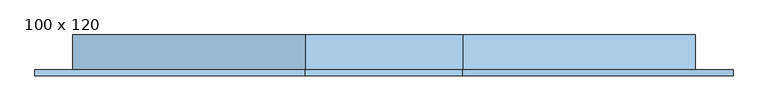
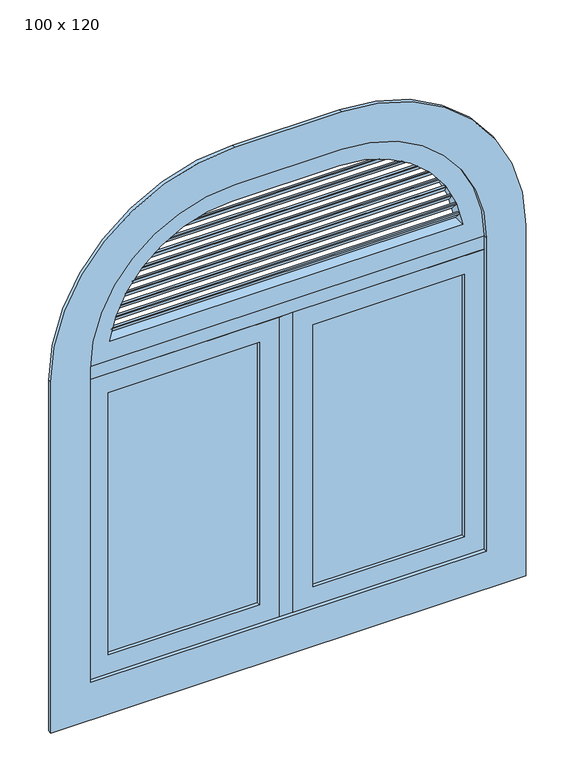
"""IFC4 building model written with IfcOpenShell, lengths in millimetres: window geometry, JANELA COM ESQUADRIA FIXA - 2 FOLHAS + BANDEIRA VENEZIANA ABOBADADA - 1 FOLHA : 100 x 120."""

from ifc_helpers import new_model, si_unit, point, frame, frame_2d, origin, place, context, project, spatial, polyline, circle_curve, ellipse_curve, trimmed, segment, composite_curve, outline, extrude, source, transform, mapped, element, save
from ifc_brep_helpers import plane_surface, cylinder_surface, advanced_brep


def window_100_x_120_4a258b0d(model_context):
    return source(origin(), model_context, "Body", "SolidModel", [
        extrude(outline(polyline([(61.9035509, -60.3758395), (61.9035509, -66.3758395), (-320.5964491, -66.3758395), (-320.5964491, -60.3758395), (61.9035509, -60.3758395)])), frame((0.0, 0.0, 1050.0), z_axis=(0.0, 0.0, 1.0), x_axis=(1.0, 0.0, 0.0)), (0.0, 0.0, 1.0), 700.0),
        extrude(outline(polyline([(1800.0, 111.9035509), (1800.0, -370.5964491), (1000.0, -370.5964491), (1000.0, 111.9035509), (1800.0, 111.9035509)]), holes=[polyline([(1750.0, 61.9035509), (1050.0, 61.9035509), (1050.0, -320.5964491), (1750.0, -320.5964491), (1750.0, 61.9035509)])]), frame((0.0, -75.8758395, 0.0), z_axis=(0.0, 1.0, 0.0), x_axis=(0.0, 0.0, 1.0)), (0.0, 0.0, 1.0), 25.0),
        extrude(outline(polyline([(579.4035509, -60.3758395), (579.4035509, -66.3758395), (196.9035509, -66.3758395), (196.9035509, -60.3758395), (579.4035509, -60.3758395)])), frame((0.0, 0.0, 1050.0), z_axis=(0.0, 0.0, 1.0), x_axis=(1.0, 0.0, 0.0)), (0.0, 0.0, 1.0), 700.0),
        extrude(outline(polyline([(1800.0, 629.4035509), (1800.0, 146.9035509), (1000.0, 146.9035509), (1000.0, 629.4035509), (1800.0, 629.4035509)]), holes=[polyline([(1750.0, 579.4035509), (1050.0, 579.4035509), (1050.0, 196.9035509), (1750.0, 196.9035509), (1750.0, 579.4035509)])]), frame((0.0, -75.8758395, 0.0), z_axis=(0.0, 1.0, 0.0), x_axis=(0.0, 0.0, 1.0)), (0.0, 0.0, 1.0), 25.0),
        extrude(outline(composite_curve([segment(polyline([(1835.0, -370.5964491), (1835.0, 629.4035509)]), True, "CONTINUOUS"), segment(trimmed(circle_curve(frame_2d((1835.0, 264.4035509)), 365.0), [point((1835.0, 629.4035509))], [point((2200.0, 264.4035509))], False, "CARTESIAN"), True, "CONTINUOUS"), segment(polyline([(2200.0, 264.4035509), (2200.0, -5.5964491)]), True, "CONTINUOUS"), segment(trimmed(circle_curve(frame_2d((1835.0, -5.5964491)), 365.0), [point((2200.0, -5.5964491))], [point((1835.0, -370.5964491))], False, "CARTESIAN"), True, "CONTINUOUS")], self_intersect=False), holes=[composite_curve([segment(trimmed(circle_curve(frame_2d((1835.0, -5.5964491)), 315.0), [point((1885.0, -316.6028799))], [point((2150.0, -5.5964491))], True, "CARTESIAN"), True, "CONTINUOUS"), segment(polyline([(2150.0, -5.5964491), (2150.0, 264.4035509)]), True, "CONTINUOUS"), segment(trimmed(circle_curve(frame_2d((1835.0, 264.4035509)), 315.0), [point((2150.0, 264.4035509))], [point((1885.0, 575.4099817))], True, "CARTESIAN"), True, "CONTINUOUS"), segment(polyline([(1885.0, 575.4099817), (1885.0, -316.6028799)]), True, "CONTINUOUS")], self_intersect=False)]), frame((0.0, -75.8758395, 0.0), z_axis=(0.0, 1.0, 0.0), x_axis=(0.0, 0.0, 1.0)), (0.0, 0.0, 1.0), 40.0),
        advanced_brep(
        [(567.9018767, -75.8758395, 1919.3431458), (-309.0947749, -75.8758395, 1919.3431458), (-310.0479231, -75.8758395, 1915.8350169), (568.855025, -75.8758395, 1915.8350169), (-316.6028799, -35.8758395, 1885.0), (575.4099817, -35.8758395, 1885.0), (575.4099817, -45.0408226, 1885.0), (-316.6028799, -45.0408226, 1885.0), (567.9018767, -70.2189853, 1919.3431458), (-309.0947749, -70.2189853, 1919.3431458)],
        [
            (0, 1),
            (1, 2, circle_curve(frame((-5.5964491, -75.8758395, 1835.0), z_axis=(0.0, -1.0, 0.0), x_axis=(-1.0, 0.0, 0.0)), 315.0)),
            (2, 3),
            (3, 0, circle_curve(frame((264.4035509, -75.8758395, 1835.0), z_axis=(0.0, -1.0, 0.0), x_axis=(-1.0, 0.0, 0.0)), 315.0)),
            (4, 5),
            (5, 6),
            (6, 7),
            (7, 4),
            (0, 8),
            (8, 9),
            (9, 1),
            (4, 9, ellipse_curve(frame((-5.5964491, 14.1241605, 1835.0), z_axis=(0.0, 0.7071067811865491, 0.7071067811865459), x_axis=(0.0, -0.707106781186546, 0.7071067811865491)), 445.4772721, 315.0)),
            (8, 5, ellipse_curve(frame((264.4035509, 14.1241605, 1835.0), z_axis=(0.0, 0.7071067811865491, 0.7071067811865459), x_axis=(0.0, -0.707106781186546, 0.7071067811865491)), 445.4772721, 315.0)),
            (2, 7, ellipse_curve(frame((-5.5964491, 4.9591774, 1835.0), z_axis=(0.0, -0.7071067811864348, -0.7071067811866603), x_axis=(0.0, -0.7071067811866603, 0.7071067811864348)), 445.4772721, 315.0)),
            (6, 3, ellipse_curve(frame((264.4035509, 4.9591774, 1835.0), z_axis=(0.0, -0.7071067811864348, -0.7071067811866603), x_axis=(0.0, -0.7071067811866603, 0.7071067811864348)), 445.4772721, 315.0)),
        ],
        [
            plane_surface(frame((579.4035509, -75.8758395, 2150.0), z_axis=(0.0, -1.0, 0.0), x_axis=(-1.0, 0.0, 0.0))),
            plane_surface(frame((579.4035509, -75.8758395, 1885.0), z_axis=(0.0, 0.0, -1.0), x_axis=(-1.0, 0.0, 0.0))),
            plane_surface(frame((-320.5964491, -70.2189853, 1919.3431458), z_axis=(0.0, 0.0, 1.0), x_axis=(1.0, 0.0, 0.0))),
            plane_surface(frame((-320.5964491, -35.8758395, 1885.0), z_axis=(0.0, 0.7071067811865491, 0.7071067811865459), x_axis=(1.0, 0.0, 0.0))),
            plane_surface(frame((579.4035509, -45.0408226, 1885.0), z_axis=(0.0, -0.7071067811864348, -0.7071067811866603), x_axis=(-1.0, 0.0, 0.0))),
            cylinder_surface(frame((-5.5964491, -75.8758395, 1835.0), z_axis=(0.0, -1.0, 0.0), x_axis=(-1.0, 0.0, 0.0)), 315.0),
            cylinder_surface(frame((264.4035509, -75.8758395, 1835.0), z_axis=(0.0, -1.0, 0.0), x_axis=(-1.0, 0.0, 0.0)), 315.0),
        ],
        [
            (0, [[1, 2, 3, 4]]),
            (1, [[5, 6, 7, 8]]),
            (2, [[-1, 9, 10, 11]]),
            (3, [[-5, 12, -10, 13]]),
            (4, [[-3, 14, -7, 15]]),
            (5, [[-2, -11, -12, -8, -14]]),
            (6, [[-4, -15, -6, -13, -9]]),
        ],
    ),
        advanced_brep(
        [(-301.0926097, -75.8758395, 1944.1192881), (559.8997116, -75.8758395, 1944.1192881), (559.0541407, -75.8758395, 1946.3823593), (-300.2470388, -75.8758395, 1946.3823593), (570.3995126, -35.8758395, 1909.7761424), (-311.5924107, -35.8758395, 1909.7761424), (-311.0305002, -35.8758395, 1912.0392136), (569.837602, -35.8758395, 1912.0392136), (570.3995126, -41.5326938, 1909.7761424), (-311.5924107, -41.5326938, 1909.7761424), (559.0541407, -70.2189853, 1946.3823593), (-300.2470388, -70.2189853, 1946.3823593)],
        [
            (0, 1),
            (1, 2, circle_curve(frame((264.4035509, -75.8758395, 1835.0), z_axis=(0.0, -1.0, 0.0), x_axis=(-1.0, 0.0, 0.0)), 315.0)),
            (2, 3),
            (3, 0, circle_curve(frame((-5.5964491, -75.8758395, 1835.0), z_axis=(0.0, -1.0, 0.0), x_axis=(-1.0, 0.0, 0.0)), 315.0)),
            (4, 5),
            (5, 6, circle_curve(frame((-5.5964491, -35.8758395, 1835.0), z_axis=(0.0, 1.0, 0.0), x_axis=(-1.0, 0.0, 0.0)), 315.0)),
            (6, 7),
            (7, 4, circle_curve(frame((264.4035509, -35.8758395, 1835.0), z_axis=(0.0, 1.0, 0.0), x_axis=(-1.0, 0.0, 0.0)), 315.0)),
            (4, 8),
            (8, 9),
            (9, 5),
            (0, 9, ellipse_curve(frame((-5.5964491, 33.2434486, 1835.0), z_axis=(0.0, -0.7071067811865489, -0.7071067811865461), x_axis=(0.0, -0.7071067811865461, 0.7071067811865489)), 445.4772721, 315.0)),
            (8, 1, ellipse_curve(frame((264.4035509, 33.2434486, 1835.0), z_axis=(0.0, -0.7071067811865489, -0.7071067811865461), x_axis=(0.0, -0.7071067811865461, 0.7071067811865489)), 445.4772721, 315.0)),
            (2, 10),
            (10, 11),
            (11, 3),
            (6, 11, ellipse_curve(frame((-5.5964491, 41.163374, 1835.0), z_axis=(0.0, 0.7071067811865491, 0.707106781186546), x_axis=(0.0, -0.7071067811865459, 0.7071067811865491)), 445.4772721, 315.0)),
            (10, 7, ellipse_curve(frame((264.4035509, 41.163374, 1835.0), z_axis=(0.0, 0.7071067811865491, 0.707106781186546), x_axis=(0.0, -0.7071067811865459, 0.7071067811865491)), 445.4772721, 315.0)),
        ],
        [
            plane_surface(frame((579.4035509, -75.8758395, 2150.0), z_axis=(0.0, -1.0, 0.0), x_axis=(-1.0, 0.0, 0.0))),
            plane_surface(frame((579.4035509, -35.8758395, 1885.0), z_axis=(0.0, 1.0, 0.0), x_axis=(-1.0, 0.0, 0.0))),
            plane_surface(frame((-320.5964491, -41.5326938, 1909.7761424), z_axis=(0.0, 0.0, -1.0), x_axis=(1.0, 0.0, 0.0))),
            plane_surface(frame((-320.5964491, -75.8758395, 1944.1192881), z_axis=(0.0, -0.7071067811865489, -0.7071067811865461), x_axis=(1.0, 0.0, 0.0))),
            plane_surface(frame((-320.5964491, -70.2189853, 1946.3823593), z_axis=(0.0, 0.0, 1.0), x_axis=(1.0, 0.0, 0.0))),
            plane_surface(frame((-320.5964491, -35.8758395, 1912.0392136), z_axis=(0.0, 0.7071067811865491, 0.707106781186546), x_axis=(1.0, 0.0, 0.0))),
            cylinder_surface(frame((-5.5964491, -75.8758395, 1835.0), z_axis=(0.0, -1.0, 0.0), x_axis=(-1.0, 0.0, 0.0)), 315.0),
            cylinder_surface(frame((264.4035509, -75.8758395, 1835.0), z_axis=(0.0, -1.0, 0.0), x_axis=(-1.0, 0.0, 0.0)), 315.0),
        ],
        [
            (0, [[1, 2, 3, 4]]),
            (1, [[5, 6, 7, 8]]),
            (2, [[-5, 9, 10, 11]]),
            (3, [[-1, 12, -10, 13]]),
            (4, [[-3, 14, 15, 16]]),
            (5, [[-7, 17, -15, 18]]),
            (6, [[-4, -16, -17, -6, -11, -12]]),
            (7, [[-2, -13, -9, -8, -18, -14]]),
        ],
    ),
        advanced_brep(
        [(358.3740569, -75.8758395, 2135.6568542), (-99.566955, -75.8758395, 2135.6568542), (-106.5229086, -75.8758395, 2133.3937831), (365.3300105, -75.8758395, 2133.3937831), (-173.8284575, -35.8758395, 2101.3137085), (432.6355594, -35.8758395, 2101.3137085), (436.165773, -35.8758395, 2099.0506373), (-177.3586711, -35.8758395, 2099.0506373), (358.3740569, -70.2189853, 2135.6568542), (-99.566955, -70.2189853, 2135.6568542), (-177.3586711, -41.5326938, 2099.0506373), (436.165773, -41.5326938, 2099.0506373)],
        [
            (0, 1),
            (1, 2, circle_curve(frame((-5.5964491, -75.8758395, 1835.0), z_axis=(0.0, -1.0, 0.0), x_axis=(-1.0, 0.0, 0.0)), 315.0)),
            (2, 3),
            (3, 0, circle_curve(frame((264.4035509, -75.8758395, 1835.0), z_axis=(0.0, -1.0, 0.0), x_axis=(-1.0, 0.0, 0.0)), 315.0)),
            (4, 5),
            (5, 6, circle_curve(frame((264.4035509, -35.8758395, 1835.0), z_axis=(0.0, 1.0, 0.0), x_axis=(-1.0, 0.0, 0.0)), 315.0)),
            (6, 7),
            (7, 4, circle_curve(frame((-5.5964491, -35.8758395, 1835.0), z_axis=(0.0, 1.0, 0.0), x_axis=(-1.0, 0.0, 0.0)), 315.0)),
            (0, 8),
            (8, 9),
            (9, 1),
            (4, 9, ellipse_curve(frame((-5.5964491, 230.437869, 1835.0), z_axis=(0.0, 0.7071067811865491, 0.7071067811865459), x_axis=(0.0, -0.707106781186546, 0.7071067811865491)), 445.4772721, 315.0)),
            (8, 5, ellipse_curve(frame((264.4035509, 230.437869, 1835.0), z_axis=(0.0, 0.7071067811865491, 0.7071067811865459), x_axis=(0.0, -0.707106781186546, 0.7071067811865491)), 445.4772721, 315.0)),
            (7, 10),
            (10, 2, ellipse_curve(frame((-5.5964491, 222.5179435, 1835.0), z_axis=(0.0, 0.7071067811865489, 0.7071067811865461), x_axis=(0.0, -0.7071067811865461, 0.7071067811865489)), 445.4772721, 315.0)),
            (3, 11, ellipse_curve(frame((264.4035509, 222.5179435, 1835.0), z_axis=(0.0, 0.7071067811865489, 0.7071067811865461), x_axis=(0.0, -0.7071067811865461, 0.7071067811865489)), 445.4772721, 315.0)),
            (11, 6),
            (11, 10),
        ],
        [
            plane_surface(frame((579.4035509, -75.8758395, 2150.0), z_axis=(0.0, -1.0, 0.0), x_axis=(-1.0, 0.0, 0.0))),
            plane_surface(frame((579.4035509, -35.8758395, 1885.0), z_axis=(0.0, 1.0, 0.0), x_axis=(-1.0, 0.0, 0.0))),
            plane_surface(frame((-320.5964491, -70.2189853, 2135.6568542), z_axis=(0.0, 0.0, 1.0), x_axis=(1.0, 0.0, 0.0))),
            plane_surface(frame((-320.5964491, -35.8758395, 2101.3137085), z_axis=(0.0, 0.7071067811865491, 0.7071067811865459), x_axis=(1.0, 0.0, 0.0))),
            cylinder_surface(frame((-5.5964491, -75.8758395, 1835.0), z_axis=(0.0, -1.0, 0.0), x_axis=(-1.0, 0.0, 0.0)), 315.0),
            cylinder_surface(frame((264.4035509, -75.8758395, 1835.0), z_axis=(0.0, -1.0, 0.0), x_axis=(-1.0, 0.0, 0.0)), 315.0),
            plane_surface(frame((-320.5964491, -41.5326938, 2099.0506373), z_axis=(0.0, 0.0, -1.0), x_axis=(1.0, 0.0, 0.0))),
            plane_surface(frame((-320.5964491, -75.8758395, 2133.3937831), z_axis=(0.0, -0.7071067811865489, -0.7071067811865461), x_axis=(1.0, 0.0, 0.0))),
        ],
        [
            (0, [[1, 2, 3, 4]]),
            (1, [[5, 6, 7, 8]]),
            (2, [[-1, 9, 10, 11]]),
            (3, [[-5, 12, -10, 13]]),
            (4, [[-11, -12, -8, 14, 15, -2]]),
            (5, [[-9, -4, 16, 17, -6, -13]]),
            (6, [[18, -14, -7, -17]]),
            (7, [[-18, -16, -3, -15]]),
        ],
    ),
        advanced_brep(
        [(-289.6490189, -75.8758395, 1971.1585017), (548.4561208, -75.8758395, 1971.1585017), (547.3602051, -75.8758395, 1973.4215729), (-288.5531033, -75.8758395, 1973.4215729), (562.4952034, -35.8758395, 1936.8153559), (-303.6881016, -35.8758395, 1936.8153559), (-302.9055155, -35.8758395, 1939.0784271), (561.7126174, -35.8758395, 1939.0784271), (562.4952034, -41.5326938, 1936.8153559), (-303.6881016, -41.5326938, 1936.8153559), (547.3602051, -70.2189853, 1973.4215729), (-288.5531033, -70.2189853, 1973.4215729)],
        [
            (0, 1),
            (1, 2, circle_curve(frame((264.4035509, -75.8758395, 1835.0), z_axis=(0.0, -1.0, 0.0), x_axis=(-1.0, 0.0, 0.0)), 315.0)),
            (2, 3),
            (3, 0, circle_curve(frame((-5.5964491, -75.8758395, 1835.0), z_axis=(0.0, -1.0, 0.0), x_axis=(-1.0, 0.0, 0.0)), 315.0)),
            (4, 5),
            (5, 6, circle_curve(frame((-5.5964491, -35.8758395, 1835.0), z_axis=(0.0, 1.0, 0.0), x_axis=(-1.0, 0.0, 0.0)), 315.0)),
            (6, 7),
            (7, 4, circle_curve(frame((264.4035509, -35.8758395, 1835.0), z_axis=(0.0, 1.0, 0.0), x_axis=(-1.0, 0.0, 0.0)), 315.0)),
            (4, 8),
            (8, 9),
            (9, 5),
            (0, 9, ellipse_curve(frame((-5.5964491, 60.2826622, 1835.0), z_axis=(0.0, -0.7071067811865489, -0.7071067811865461), x_axis=(0.0, -0.7071067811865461, 0.7071067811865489)), 445.4772721, 315.0)),
            (8, 1, ellipse_curve(frame((264.4035509, 60.2826622, 1835.0), z_axis=(0.0, -0.7071067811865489, -0.7071067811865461), x_axis=(0.0, -0.7071067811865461, 0.7071067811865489)), 445.4772721, 315.0)),
            (2, 10),
            (10, 11),
            (11, 3),
            (6, 11, ellipse_curve(frame((-5.5964491, 68.2025876, 1835.0), z_axis=(0.0, 0.7071067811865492, 0.7071067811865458), x_axis=(0.0, -0.7071067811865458, 0.7071067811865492)), 445.4772721, 315.0)),
            (10, 7, ellipse_curve(frame((264.4035509, 68.2025876, 1835.0), z_axis=(0.0, 0.7071067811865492, 0.7071067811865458), x_axis=(0.0, -0.7071067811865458, 0.7071067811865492)), 445.4772721, 315.0)),
        ],
        [
            plane_surface(frame((579.4035509, -75.8758395, 2150.0), z_axis=(0.0, -1.0, 0.0), x_axis=(-1.0, 0.0, 0.0))),
            plane_surface(frame((579.4035509, -35.8758395, 1885.0), z_axis=(0.0, 1.0, 0.0), x_axis=(-1.0, 0.0, 0.0))),
            plane_surface(frame((-320.5964491, -41.5326938, 1936.8153559), z_axis=(0.0, 0.0, -1.0), x_axis=(1.0, 0.0, 0.0))),
            plane_surface(frame((-320.5964491, -75.8758395, 1971.1585017), z_axis=(0.0, -0.7071067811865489, -0.7071067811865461), x_axis=(1.0, 0.0, 0.0))),
            plane_surface(frame((-320.5964491, -70.2189853, 1973.4215729), z_axis=(0.0, 0.0, 1.0), x_axis=(1.0, 0.0, 0.0))),
            plane_surface(frame((-320.5964491, -35.8758395, 1939.0784271), z_axis=(0.0, 0.7071067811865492, 0.7071067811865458), x_axis=(1.0, 0.0, 0.0))),
            cylinder_surface(frame((-5.5964491, -75.8758395, 1835.0), z_axis=(0.0, -1.0, 0.0), x_axis=(-1.0, 0.0, 0.0)), 315.0),
            cylinder_surface(frame((264.4035509, -75.8758395, 1835.0), z_axis=(0.0, -1.0, 0.0), x_axis=(-1.0, 0.0, 0.0)), 315.0),
        ],
        [
            (0, [[1, 2, 3, 4]]),
            (1, [[5, 6, 7, 8]]),
            (2, [[-5, 9, 10, 11]]),
            (3, [[-1, 12, -10, 13]]),
            (4, [[-3, 14, 15, 16]]),
            (5, [[-7, 17, -15, 18]]),
            (6, [[-4, -16, -17, -6, -11, -12]]),
            (7, [[-2, -13, -9, -8, -18, -14]]),
        ],
    ),
        advanced_brep(
        [(-275.0245577, -75.8758395, 1998.1977153), (533.8316596, -75.8758395, 1998.1977153), (532.4478162, -75.8758395, 2000.4607864), (-273.6407143, -75.8758395, 2000.4607864), (551.8431097, -35.8758395, 1963.8545695), (-293.0360078, -35.8758395, 1963.8545695), (-292.0107719, -35.8758395, 1966.1176407), (550.8178737, -35.8758395, 1966.1176407), (551.8431097, -41.5326938, 1963.8545695), (-293.0360078, -41.5326938, 1963.8545695), (532.4478162, -70.2189853, 2000.4607864), (-273.6407143, -70.2189853, 2000.4607864)],
        [
            (0, 1),
            (1, 2, circle_curve(frame((264.4035509, -75.8758395, 1835.0), z_axis=(0.0, -1.0, 0.0), x_axis=(-1.0, 0.0, 0.0)), 315.0)),
            (2, 3),
            (3, 0, circle_curve(frame((-5.5964491, -75.8758395, 1835.0), z_axis=(0.0, -1.0, 0.0), x_axis=(-1.0, 0.0, 0.0)), 315.0)),
            (4, 5),
            (5, 6, circle_curve(frame((-5.5964491, -35.8758395, 1835.0), z_axis=(0.0, 1.0, 0.0), x_axis=(-1.0, 0.0, 0.0)), 315.0)),
            (6, 7),
            (7, 4, circle_curve(frame((264.4035509, -35.8758395, 1835.0), z_axis=(0.0, 1.0, 0.0), x_axis=(-1.0, 0.0, 0.0)), 315.0)),
            (4, 8),
            (8, 9),
            (9, 5),
            (0, 9, ellipse_curve(frame((-5.5964491, 87.3218757, 1835.0), z_axis=(0.0, -0.7071067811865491, -0.707106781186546), x_axis=(0.0, -0.7071067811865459, 0.7071067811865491)), 445.4772721, 315.0)),
            (8, 1, ellipse_curve(frame((264.4035509, 87.3218757, 1835.0), z_axis=(0.0, -0.7071067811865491, -0.707106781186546), x_axis=(0.0, -0.7071067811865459, 0.7071067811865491)), 445.4772721, 315.0)),
            (2, 10),
            (10, 11),
            (11, 3),
            (6, 11, ellipse_curve(frame((-5.5964491, 95.2418012, 1835.0), z_axis=(0.0, 0.707106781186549, 0.7071067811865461), x_axis=(0.0, -0.7071067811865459, 0.707106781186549)), 445.4772721, 315.0)),
            (10, 7, ellipse_curve(frame((264.4035509, 95.2418012, 1835.0), z_axis=(0.0, 0.707106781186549, 0.7071067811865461), x_axis=(0.0, -0.7071067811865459, 0.707106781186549)), 445.4772721, 315.0)),
        ],
        [
            plane_surface(frame((579.4035509, -75.8758395, 2150.0), z_axis=(0.0, -1.0, 0.0), x_axis=(-1.0, 0.0, 0.0))),
            plane_surface(frame((579.4035509, -35.8758395, 1885.0), z_axis=(0.0, 1.0, 0.0), x_axis=(-1.0, 0.0, 0.0))),
            plane_surface(frame((-320.5964491, -41.5326938, 1963.8545695), z_axis=(0.0, 0.0, -1.0), x_axis=(1.0, 0.0, 0.0))),
            plane_surface(frame((-320.5964491, -75.8758395, 1998.1977153), z_axis=(0.0, -0.7071067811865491, -0.707106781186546), x_axis=(1.0, 0.0, 0.0))),
            plane_surface(frame((-320.5964491, -70.2189853, 2000.4607864), z_axis=(0.0, 0.0, 1.0), x_axis=(1.0, 0.0, 0.0))),
            plane_surface(frame((-320.5964491, -35.8758395, 1966.1176407), z_axis=(0.0, 0.707106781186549, 0.7071067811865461), x_axis=(1.0, 0.0, 0.0))),
            cylinder_surface(frame((-5.5964491, -75.8758395, 1835.0), z_axis=(0.0, -1.0, 0.0), x_axis=(-1.0, 0.0, 0.0)), 315.0),
            cylinder_surface(frame((264.4035509, -75.8758395, 1835.0), z_axis=(0.0, -1.0, 0.0), x_axis=(-1.0, 0.0, 0.0)), 315.0),
        ],
        [
            (0, [[1, 2, 3, 4]]),
            (1, [[5, 6, 7, 8]]),
            (2, [[-5, 9, 10, 11]]),
            (3, [[-1, 12, -10, 13]]),
            (4, [[-3, 14, 15, 16]]),
            (5, [[-7, 17, -15, 18]]),
            (6, [[-4, -16, -17, -6, -11, -12]]),
            (7, [[-2, -13, -9, -8, -18, -14]]),
        ],
    ),
        advanced_brep(
        [(-256.6639916, -75.8758395, 2025.2369288), (515.4710935, -75.8758395, 2025.2369288), (513.7401708, -75.8758395, 2027.5), (-254.9330689, -75.8758395, 2027.5), (538.1226193, -35.8758395, 1990.8937831), (-279.3155175, -35.8758395, 1990.8937831), (-278.0141604, -35.8758395, 1993.1568542), (536.8212623, -35.8758395, 1993.1568542), (538.1226193, -41.5326938, 1990.8937831), (-279.3155175, -41.5326938, 1990.8937831), (513.7401708, -70.2189853, 2027.5), (-254.9330689, -70.2189853, 2027.5)],
        [
            (0, 1),
            (1, 2, circle_curve(frame((264.4035509, -75.8758395, 1835.0), z_axis=(0.0, -1.0, 0.0), x_axis=(-1.0, 0.0, 0.0)), 315.0)),
            (2, 3),
            (3, 0, circle_curve(frame((-5.5964491, -75.8758395, 1835.0), z_axis=(0.0, -1.0, 0.0), x_axis=(-1.0, 0.0, 0.0)), 315.0)),
            (4, 5),
            (5, 6, circle_curve(frame((-5.5964491, -35.8758395, 1835.0), z_axis=(0.0, 1.0, 0.0), x_axis=(-1.0, 0.0, 0.0)), 315.0)),
            (6, 7),
            (7, 4, circle_curve(frame((264.4035509, -35.8758395, 1835.0), z_axis=(0.0, 1.0, 0.0), x_axis=(-1.0, 0.0, 0.0)), 315.0)),
            (4, 8),
            (8, 9),
            (9, 5),
            (0, 9, ellipse_curve(frame((-5.5964491, 114.3610893, 1835.0), z_axis=(0.0, -0.7071067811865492, -0.7071067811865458), x_axis=(0.0, -0.7071067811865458, 0.7071067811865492)), 445.4772721, 315.0)),
            (8, 1, ellipse_curve(frame((264.4035509, 114.3610893, 1835.0), z_axis=(0.0, -0.7071067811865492, -0.7071067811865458), x_axis=(0.0, -0.7071067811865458, 0.7071067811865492)), 445.4772721, 315.0)),
            (2, 10),
            (10, 11),
            (11, 3),
            (6, 11, ellipse_curve(frame((-5.5964491, 122.2810147, 1835.0), z_axis=(0.0, 0.7071067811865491, 0.7071067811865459), x_axis=(0.0, -0.707106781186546, 0.7071067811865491)), 445.4772721, 315.0)),
            (10, 7, ellipse_curve(frame((264.4035509, 122.2810147, 1835.0), z_axis=(0.0, 0.7071067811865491, 0.7071067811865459), x_axis=(0.0, -0.707106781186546, 0.7071067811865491)), 445.4772721, 315.0)),
        ],
        [
            plane_surface(frame((579.4035509, -75.8758395, 2150.0), z_axis=(0.0, -1.0, 0.0), x_axis=(-1.0, 0.0, 0.0))),
            plane_surface(frame((579.4035509, -35.8758395, 1885.0), z_axis=(0.0, 1.0, 0.0), x_axis=(-1.0, 0.0, 0.0))),
            plane_surface(frame((-320.5964491, -41.5326938, 1990.8937831), z_axis=(0.0, 0.0, -1.0), x_axis=(1.0, 0.0, 0.0))),
            plane_surface(frame((-320.5964491, -75.8758395, 2025.2369288), z_axis=(0.0, -0.7071067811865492, -0.7071067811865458), x_axis=(1.0, 0.0, 0.0))),
            plane_surface(frame((-320.5964491, -70.2189853, 2027.5), z_axis=(0.0, 0.0, 1.0), x_axis=(1.0, 0.0, 0.0))),
            plane_surface(frame((-320.5964491, -35.8758395, 1993.1568542), z_axis=(0.0, 0.7071067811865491, 0.7071067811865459), x_axis=(1.0, 0.0, 0.0))),
            cylinder_surface(frame((-5.5964491, -75.8758395, 1835.0), z_axis=(0.0, -1.0, 0.0), x_axis=(-1.0, 0.0, 0.0)), 315.0),
            cylinder_surface(frame((264.4035509, -75.8758395, 1835.0), z_axis=(0.0, -1.0, 0.0), x_axis=(-1.0, 0.0, 0.0)), 315.0),
        ],
        [
            (0, [[1, 2, 3, 4]]),
            (1, [[5, 6, 7, 8]]),
            (2, [[-5, 9, 10, 11]]),
            (3, [[-1, 12, -10, 13]]),
            (4, [[-3, 14, 15, 16]]),
            (5, [[-7, 17, -15, 18]]),
            (6, [[-4, -16, -17, -6, -11, -12]]),
            (7, [[-2, -13, -9, -8, -18, -14]]),
        ],
    ),
        advanced_brep(
        [(-233.6667846, -75.8758395, 2052.2761424), (492.4738865, -75.8758395, 2052.2761424), (490.2962992, -75.8758395, 2054.5392136), (-231.4891973, -75.8758395, 2054.5392136), (520.8416892, -35.8758395, 2017.9329966), (-262.0345873, -35.8758395, 2017.9329966), (-260.405037, -35.8758395, 2020.1960678), (519.2121388, -35.8758395, 2020.1960678), (520.8416892, -41.5326938, 2017.9329966), (-262.0345873, -41.5326938, 2017.9329966), (-231.4891973, -70.2189853, 2054.5392136), (490.2962992, -70.2189853, 2054.5392136)],
        [
            (0, 1),
            (1, 2, circle_curve(frame((264.4035509, -75.8758395, 1835.0), z_axis=(0.0, -1.0, 0.0), x_axis=(-1.0, 0.0, 0.0)), 315.0)),
            (2, 3),
            (3, 0, circle_curve(frame((-5.5964491, -75.8758395, 1835.0), z_axis=(0.0, -1.0, 0.0), x_axis=(-1.0, 0.0, 0.0)), 315.0)),
            (4, 5),
            (5, 6, circle_curve(frame((-5.5964491, -35.8758395, 1835.0), z_axis=(0.0, 1.0, 0.0), x_axis=(-1.0, 0.0, 0.0)), 315.0)),
            (6, 7),
            (7, 4, circle_curve(frame((264.4035509, -35.8758395, 1835.0), z_axis=(0.0, 1.0, 0.0), x_axis=(-1.0, 0.0, 0.0)), 315.0)),
            (4, 8),
            (8, 9),
            (9, 5),
            (0, 9, ellipse_curve(frame((-5.5964491, 141.4003029, 1835.0), z_axis=(0.0, -0.7071067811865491, -0.707106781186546), x_axis=(0.0, -0.7071067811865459, 0.7071067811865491)), 445.4772721, 315.0)),
            (8, 1, ellipse_curve(frame((264.4035509, 141.4003029, 1835.0), z_axis=(0.0, -0.7071067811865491, -0.707106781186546), x_axis=(0.0, -0.7071067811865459, 0.7071067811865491)), 445.4772721, 315.0)),
            (3, 10),
            (10, 6, ellipse_curve(frame((-5.5964491, 149.3202283, 1835.0), z_axis=(0.0, -0.7071067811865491, -0.707106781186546), x_axis=(0.0, -0.7071067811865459, 0.7071067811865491)), 445.4772721, 315.0)),
            (7, 11, ellipse_curve(frame((264.4035509, 149.3202283, 1835.0), z_axis=(0.0, -0.7071067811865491, -0.707106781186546), x_axis=(0.0, -0.7071067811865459, 0.7071067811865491)), 445.4772721, 315.0)),
            (11, 2),
            (11, 10),
        ],
        [
            plane_surface(frame((579.4035509, -75.8758395, 2150.0), z_axis=(0.0, -1.0, 0.0), x_axis=(-1.0, 0.0, 0.0))),
            plane_surface(frame((579.4035509, -35.8758395, 1885.0), z_axis=(0.0, 1.0, 0.0), x_axis=(-1.0, 0.0, 0.0))),
            plane_surface(frame((-320.5964491, -41.5326938, 2017.9329966), z_axis=(0.0, 0.0, -1.0), x_axis=(1.0, 0.0, 0.0))),
            plane_surface(frame((-320.5964491, -75.8758395, 2052.2761424), z_axis=(0.0, -0.7071067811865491, -0.707106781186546), x_axis=(1.0, 0.0, 0.0))),
            cylinder_surface(frame((-5.5964491, -75.8758395, 1835.0), z_axis=(0.0, -1.0, 0.0), x_axis=(-1.0, 0.0, 0.0)), 315.0),
            cylinder_surface(frame((264.4035509, -75.8758395, 1835.0), z_axis=(0.0, -1.0, 0.0), x_axis=(-1.0, 0.0, 0.0)), 315.0),
            plane_surface(frame((-320.5964491, -70.2189853, 2054.5392136), z_axis=(0.0, 0.0, 1.0), x_axis=(1.0, 0.0, 0.0))),
            plane_surface(frame((-320.5964491, -35.8758395, 2020.1960678), z_axis=(0.0, 0.7071067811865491, 0.707106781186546), x_axis=(1.0, 0.0, 0.0))),
        ],
        [
            (0, [[1, 2, 3, 4]]),
            (1, [[5, 6, 7, 8]]),
            (2, [[-5, 9, 10, 11]]),
            (3, [[-1, 12, -10, 13]]),
            (4, [[-11, -12, -4, 14, 15, -6]]),
            (5, [[-9, -8, 16, 17, -2, -13]]),
            (6, [[18, -14, -3, -17]]),
            (7, [[-18, -16, -7, -15]]),
        ],
    ),
        advanced_brep(
        [(-204.430568, -75.8758395, 2079.3153559), (463.2376699, -75.8758395, 2079.3153559), (460.4241603, -75.8758395, 2081.5784271), (-201.6170584, -75.8758395, 2081.5784271), (499.2155416, -35.8758395, 2044.9722102), (-240.4084397, -35.8758395, 2044.9722102), (-238.3649722, -35.8758395, 2047.2352814), (497.172074, -35.8758395, 2047.2352814), (-240.4084397, -41.5326938, 2044.9722102), (-201.6170584, -70.2189853, 2081.5784271), (499.2155416, -41.5326938, 2044.9722102), (460.4241603, -70.2189853, 2081.5784271)],
        [
            (0, 1),
            (1, 2, circle_curve(frame((264.4035509, -75.8758395, 1835.0), z_axis=(0.0, -1.0, 0.0), x_axis=(-1.0, 0.0, 0.0)), 315.0)),
            (2, 3),
            (3, 0, circle_curve(frame((-5.5964491, -75.8758395, 1835.0), z_axis=(0.0, -1.0, 0.0), x_axis=(-1.0, 0.0, 0.0)), 315.0)),
            (4, 5),
            (5, 6, circle_curve(frame((-5.5964491, -35.8758395, 1835.0), z_axis=(0.0, 1.0, 0.0), x_axis=(-1.0, 0.0, 0.0)), 315.0)),
            (6, 7),
            (7, 4, circle_curve(frame((264.4035509, -35.8758395, 1835.0), z_axis=(0.0, 1.0, 0.0), x_axis=(-1.0, 0.0, 0.0)), 315.0)),
            (5, 8),
            (8, 0, ellipse_curve(frame((-5.5964491, 168.4395164, 1835.0), z_axis=(0.0, 0.7071067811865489, 0.7071067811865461), x_axis=(0.0, -0.7071067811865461, 0.7071067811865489)), 445.4772721, 315.0)),
            (3, 9),
            (9, 6, ellipse_curve(frame((-5.5964491, 176.3594419, 1835.0), z_axis=(0.0, -0.7071067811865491, -0.707106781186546), x_axis=(0.0, -0.7071067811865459, 0.7071067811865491)), 445.4772721, 315.0)),
            (10, 4),
            (7, 11, ellipse_curve(frame((264.4035509, 176.3594419, 1835.0), z_axis=(0.0, -0.7071067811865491, -0.707106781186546), x_axis=(0.0, -0.7071067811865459, 0.7071067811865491)), 445.4772721, 315.0)),
            (11, 2),
            (1, 10, ellipse_curve(frame((264.4035509, 168.4395164, 1835.0), z_axis=(0.0, 0.7071067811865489, 0.7071067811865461), x_axis=(0.0, -0.7071067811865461, 0.7071067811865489)), 445.4772721, 315.0)),
            (10, 8),
            (11, 9),
        ],
        [
            plane_surface(frame((579.4035509, -75.8758395, 2150.0), z_axis=(0.0, -1.0, 0.0), x_axis=(-1.0, 0.0, 0.0))),
            plane_surface(frame((579.4035509, -35.8758395, 1885.0), z_axis=(0.0, 1.0, 0.0), x_axis=(-1.0, 0.0, 0.0))),
            cylinder_surface(frame((-5.5964491, -75.8758395, 1835.0), z_axis=(0.0, -1.0, 0.0), x_axis=(-1.0, 0.0, 0.0)), 315.0),
            cylinder_surface(frame((264.4035509, -75.8758395, 1835.0), z_axis=(0.0, -1.0, 0.0), x_axis=(-1.0, 0.0, 0.0)), 315.0),
            plane_surface(frame((-320.5964491, -41.5326938, 2044.9722102), z_axis=(0.0, 0.0, -1.0), x_axis=(1.0, 0.0, 0.0))),
            plane_surface(frame((-320.5964491, -75.8758395, 2079.3153559), z_axis=(0.0, -0.7071067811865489, -0.7071067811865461), x_axis=(1.0, 0.0, 0.0))),
            plane_surface(frame((-320.5964491, -70.2189853, 2081.5784271), z_axis=(0.0, 0.0, 1.0), x_axis=(1.0, 0.0, 0.0))),
            plane_surface(frame((-320.5964491, -35.8758395, 2047.2352814), z_axis=(0.0, 0.7071067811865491, 0.707106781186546), x_axis=(1.0, 0.0, 0.0))),
        ],
        [
            (0, [[1, 2, 3, 4]]),
            (1, [[5, 6, 7, 8]]),
            (2, [[9, 10, -4, 11, 12, -6]]),
            (3, [[13, -8, 14, 15, -2, 16]]),
            (4, [[17, -9, -5, -13]]),
            (5, [[-17, -16, -1, -10]]),
            (6, [[18, -11, -3, -15]]),
            (7, [[-18, -14, -7, -12]]),
        ],
    ),
        advanced_brep(
        [(-165.570502, -75.8758395, 2106.3545695), (424.3776039, -75.8758395, 2106.3545695), (420.4752867, -75.8758395, 2108.6176407), (-161.6681848, -75.8758395, 2108.6176407), (471.8898999, -35.8758395, 2072.0114237), (-213.082798, -35.8758395, 2072.0114237), (-210.4688876, -35.8758395, 2074.2744949), (469.2759895, -35.8758395, 2074.2744949), (-213.082798, -41.5326938, 2072.0114237), (-161.6681848, -70.2189853, 2108.6176407), (471.8898999, -41.5326938, 2072.0114237), (420.4752867, -70.2189853, 2108.6176407)],
        [
            (0, 1),
            (1, 2, circle_curve(frame((264.4035509, -75.8758395, 1835.0), z_axis=(0.0, -1.0, 0.0), x_axis=(-1.0, 0.0, 0.0)), 315.0)),
            (2, 3),
            (3, 0, circle_curve(frame((-5.5964491, -75.8758395, 1835.0), z_axis=(0.0, -1.0, 0.0), x_axis=(-1.0, 0.0, 0.0)), 315.0)),
            (4, 5),
            (5, 6, circle_curve(frame((-5.5964491, -35.8758395, 1835.0), z_axis=(0.0, 1.0, 0.0), x_axis=(-1.0, 0.0, 0.0)), 315.0)),
            (6, 7),
            (7, 4, circle_curve(frame((264.4035509, -35.8758395, 1835.0), z_axis=(0.0, 1.0, 0.0), x_axis=(-1.0, 0.0, 0.0)), 315.0)),
            (5, 8),
            (8, 0, ellipse_curve(frame((-5.5964491, 195.47873, 1835.0), z_axis=(0.0, 0.7071067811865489, 0.7071067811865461), x_axis=(0.0, -0.7071067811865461, 0.7071067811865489)), 445.4772721, 315.0)),
            (3, 9),
            (9, 6, ellipse_curve(frame((-5.5964491, 203.3986554, 1835.0), z_axis=(0.0, -0.7071067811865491, -0.707106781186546), x_axis=(0.0, -0.7071067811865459, 0.7071067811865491)), 445.4772721, 315.0)),
            (10, 4),
            (7, 11, ellipse_curve(frame((264.4035509, 203.3986554, 1835.0), z_axis=(0.0, -0.7071067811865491, -0.707106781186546), x_axis=(0.0, -0.7071067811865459, 0.7071067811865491)), 445.4772721, 315.0)),
            (11, 2),
            (1, 10, ellipse_curve(frame((264.4035509, 195.47873, 1835.0), z_axis=(0.0, 0.7071067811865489, 0.7071067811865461), x_axis=(0.0, -0.7071067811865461, 0.7071067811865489)), 445.4772721, 315.0)),
            (10, 8),
            (11, 9),
        ],
        [
            plane_surface(frame((579.4035509, -75.8758395, 2150.0), z_axis=(0.0, -1.0, 0.0), x_axis=(-1.0, 0.0, 0.0))),
            plane_surface(frame((579.4035509, -35.8758395, 1885.0), z_axis=(0.0, 1.0, 0.0), x_axis=(-1.0, 0.0, 0.0))),
            cylinder_surface(frame((-5.5964491, -75.8758395, 1835.0), z_axis=(0.0, -1.0, 0.0), x_axis=(-1.0, 0.0, 0.0)), 315.0),
            cylinder_surface(frame((264.4035509, -75.8758395, 1835.0), z_axis=(0.0, -1.0, 0.0), x_axis=(-1.0, 0.0, 0.0)), 315.0),
            plane_surface(frame((-320.5964491, -41.5326938, 2072.0114237), z_axis=(0.0, 0.0, -1.0), x_axis=(1.0, 0.0, 0.0))),
            plane_surface(frame((-320.5964491, -75.8758395, 2106.3545695), z_axis=(0.0, -0.7071067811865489, -0.7071067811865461), x_axis=(1.0, 0.0, 0.0))),
            plane_surface(frame((-320.5964491, -70.2189853, 2108.6176407), z_axis=(0.0, 0.0, 1.0), x_axis=(1.0, 0.0, 0.0))),
            plane_surface(frame((-320.5964491, -35.8758395, 2074.2744949), z_axis=(0.0, 0.7071067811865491, 0.707106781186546), x_axis=(1.0, 0.0, 0.0))),
        ],
        [
            (0, [[1, 2, 3, 4]]),
            (1, [[5, 6, 7, 8]]),
            (2, [[9, 10, -4, 11, 12, -6]]),
            (3, [[13, -8, 14, 15, -2, 16]]),
            (4, [[17, -9, -5, -13]]),
            (5, [[-17, -16, -1, -10]]),
            (6, [[18, -11, -3, -15]]),
            (7, [[-18, -14, -7, -12]]),
        ],
    ),
        advanced_brep(
        [(384.7850226, -35.8758395, 2126.0898509), (-125.9779207, -35.8758395, 2126.0898509), (-119.2542885, -35.8758395, 2128.7803525), (378.0613903, -35.8758395, 2128.7803525), (-5.5964491, -65.4428429, 2150.0), (264.4035509, -65.4428429, 2150.0), (264.4035509, -57.095487, 2150.0), (-5.5964491, -57.095487, 2150.0), (384.7850226, -41.5326938, 2126.0898509), (-125.9779207, -41.5326938, 2126.0898509)],
        [
            (0, 1),
            (1, 2, circle_curve(frame((-5.5964491, -35.8758395, 1835.0), z_axis=(0.0, 1.0, 0.0), x_axis=(-1.0, 0.0, 0.0)), 315.0)),
            (2, 3),
            (3, 0, circle_curve(frame((264.4035509, -35.8758395, 1835.0), z_axis=(0.0, 1.0, 0.0), x_axis=(-1.0, 0.0, 0.0)), 315.0)),
            (4, 5),
            (5, 6),
            (6, 7),
            (7, 4),
            (0, 8),
            (8, 9),
            (9, 1),
            (4, 9, ellipse_curve(frame((-5.5964491, 249.5571571, 1835.0), z_axis=(0.0, -0.7071067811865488, -0.7071067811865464), x_axis=(0.0, -0.7071067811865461, 0.7071067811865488)), 445.4772721, 315.0)),
            (8, 5, ellipse_curve(frame((264.4035509, 249.5571571, 1835.0), z_axis=(0.0, -0.7071067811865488, -0.7071067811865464), x_axis=(0.0, -0.7071067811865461, 0.7071067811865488)), 445.4772721, 315.0)),
            (2, 7, ellipse_curve(frame((-5.5964491, 257.904513, 1835.0), z_axis=(0.0, 0.7071067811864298, 0.7071067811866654), x_axis=(0.0, -0.7071067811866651, 0.7071067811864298)), 445.4772721, 315.0)),
            (6, 3, ellipse_curve(frame((264.4035509, 257.904513, 1835.0), z_axis=(0.0, 0.7071067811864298, 0.7071067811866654), x_axis=(0.0, -0.7071067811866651, 0.7071067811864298)), 445.4772721, 315.0)),
        ],
        [
            plane_surface(frame((579.4035509, -35.8758395, 1885.0), z_axis=(0.0, 1.0, 0.0), x_axis=(-1.0, 0.0, 0.0))),
            plane_surface(frame((579.4035509, -35.8758395, 2150.0), z_axis=(0.0, 0.0, 1.0), x_axis=(-1.0, 0.0, 0.0))),
            plane_surface(frame((-320.5964491, -41.5326938, 2126.0898509), z_axis=(0.0, 0.0, -1.0), x_axis=(1.0, 0.0, 0.0))),
            plane_surface(frame((-320.5964491, -75.8758395, 2160.4329966), z_axis=(0.0, -0.7071067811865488, -0.7071067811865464), x_axis=(1.0, 0.0, 0.0))),
            plane_surface(frame((579.4035509, -57.095487, 2150.0), z_axis=(0.0, 0.7071067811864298, 0.7071067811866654), x_axis=(-1.0, 0.0, 0.0))),
            cylinder_surface(frame((-5.5964491, -75.8758395, 1835.0), z_axis=(0.0, -1.0, 0.0), x_axis=(-1.0, 0.0, 0.0)), 315.0),
            cylinder_surface(frame((264.4035509, -75.8758395, 1835.0), z_axis=(0.0, -1.0, 0.0), x_axis=(-1.0, 0.0, 0.0)), 315.0),
        ],
        [
            (0, [[1, 2, 3, 4]]),
            (1, [[5, 6, 7, 8]]),
            (2, [[-1, 9, 10, 11]]),
            (3, [[-5, 12, -10, 13]]),
            (4, [[-3, 14, -7, 15]]),
            (5, [[-2, -11, -12, -8, -14]]),
            (6, [[-4, -15, -6, -13, -9]]),
        ],
    ),
        extrude(outline(composite_curve([segment(polyline([(900.0, -470.5964491), (900.0, 729.4035509), (1835.0, 729.4035509)]), True, "CONTINUOUS"), segment(trimmed(circle_curve(frame_2d((1835.0, 264.4035509)), 465.0), [point((1835.0, 729.4035509))], [point((2300.0, 264.4035509))], False, "CARTESIAN"), True, "CONTINUOUS"), segment(polyline([(2300.0, 264.4035509), (2300.0, -5.5964491)]), True, "CONTINUOUS"), segment(trimmed(circle_curve(frame_2d((1835.0, -5.5964491)), 465.0), [point((2300.0, -5.5964491))], [point((1835.0, -470.5964491))], False, "CARTESIAN"), True, "CONTINUOUS"), segment(polyline([(1835.0, -470.5964491), (900.0, -470.5964491)]), True, "CONTINUOUS")], self_intersect=False), holes=[composite_curve([segment(trimmed(circle_curve(frame_2d((1835.0, -5.5964491)), 365.0), [point((1835.0, -370.5964491))], [point((2200.0, -5.5964491))], True, "CARTESIAN"), True, "CONTINUOUS"), segment(polyline([(2200.0, -5.5964491), (2200.0, 264.4035509)]), True, "CONTINUOUS"), segment(trimmed(circle_curve(frame_2d((1835.0, 264.4035509)), 365.0), [point((2200.0, 264.4035509))], [point((1835.0, 629.4035509))], True, "CARTESIAN"), True, "CONTINUOUS"), segment(polyline([(1835.0, 629.4035509), (1000.0, 629.4035509), (1000.0, -370.5964491), (1835.0, -370.5964491)]), True, "CONTINUOUS")], self_intersect=False)]), frame((0.0, -85.8758395, 0.0), z_axis=(0.0, 1.0, 0.0), x_axis=(0.0, 0.0, 1.0)), (0.0, 0.0, 1.0), 10.0),
        extrude(outline(polyline([(-405.5964491, -15.8758395), (-370.5964491, -15.8758395), (-370.5964491, -75.8758395), (-405.5964491, -75.8758395), (-405.5964491, -15.8758395)])), frame((0.0, 0.0, 1000.0), z_axis=(0.0, 0.0, 1.0), x_axis=(1.0, 0.0, 0.0)), (0.0, 0.0, 1.0), 800.0),
        extrude(outline(polyline([(629.4035509, -15.8758395), (664.4035509, -15.8758395), (664.4035509, -75.8758395), (629.4035509, -75.8758395), (629.4035509, -15.8758395)])), frame((0.0, 0.0, 1000.0), z_axis=(0.0, 0.0, 1.0), x_axis=(1.0, 0.0, 0.0)), (0.0, 0.0, 1.0), 800.0),
        extrude(outline(polyline([(111.9035509, -15.8758395), (146.9035509, -15.8758395), (146.9035509, -75.8758395), (111.9035509, -75.8758395), (111.9035509, -15.8758395)])), frame((0.0, 0.0, 1000.0), z_axis=(0.0, 0.0, 1.0), x_axis=(1.0, 0.0, 0.0)), (0.0, 0.0, 1.0), 800.0),
        extrude(outline(polyline([(-405.5964491, -15.8758395), (664.4035509, -15.8758395), (664.4035509, -75.8758395), (-405.5964491, -75.8758395), (-405.5964491, -15.8758395)])), frame((0.0, 0.0, 965.0), z_axis=(0.0, 0.0, 1.0), x_axis=(1.0, 0.0, 0.0)), (0.0, 0.0, 1.0), 35.0),
        extrude(outline(composite_curve([segment(polyline([(1800.0, 664.4035509), (1835.0, 664.4035509)]), True, "CONTINUOUS"), segment(trimmed(circle_curve(frame_2d((1835.0, 264.4035509)), 400.0), [point((1835.0, 664.4035509))], [point((2235.0, 264.4035509))], False, "CARTESIAN"), True, "CONTINUOUS"), segment(polyline([(2235.0, 264.4035509), (2235.0, -5.5964491)]), True, "CONTINUOUS"), segment(trimmed(circle_curve(frame_2d((1835.0, -5.5964491)), 400.0), [point((2235.0, -5.5964491))], [point((1835.0, -405.5964491))], False, "CARTESIAN"), True, "CONTINUOUS"), segment(polyline([(1835.0, -405.5964491), (1800.0, -405.5964491), (1800.0, 664.4035509)]), True, "CONTINUOUS")], self_intersect=False), holes=[composite_curve([segment(polyline([(1835.0, 629.4035509), (1835.0, -370.5964491)]), True, "CONTINUOUS"), segment(trimmed(circle_curve(frame_2d((1835.0, -5.5964491)), 365.0), [point((1835.0, -370.5964491))], [point((2200.0, -5.5964491))], True, "CARTESIAN"), True, "CONTINUOUS"), segment(polyline([(2200.0, -5.5964491), (2200.0, 264.4035509)]), True, "CONTINUOUS"), segment(trimmed(circle_curve(frame_2d((1835.0, 264.4035509)), 365.0), [point((2200.0, 264.4035509))], [point((1835.0, 629.4035509))], True, "CARTESIAN"), True, "CONTINUOUS")], self_intersect=False)]), frame((0.0, -75.8758395, 0.0), z_axis=(0.0, 1.0, 0.0), x_axis=(0.0, 0.0, 1.0)), (0.0, 0.0, 1.0), 60.0),
    ])


if __name__ == "__main__":
    model = new_model("IFC4")
    model_context = context("Model", 3, world=origin())
    ifc_project = project(units=[si_unit("LENGTHUNIT", "METRE", prefix="MILLI")], contexts=[model_context])
    site = spatial("IfcSite", under=ifc_project)
    building = spatial("IfcBuilding", under=site)
    placement = place(None, origin())
    window_100_x_120_shape = window_100_x_120_4a258b0d(model_context)
    element("IfcWindow", 1, ObjectType="JANELA COM ESQUADRIA FIXA - 2 FOLHAS + BANDEIRA VENEZIANA ABOBADADA - 1 FOLHA : 100 x 120", at=placement, inside=building, context=model_context, shape_type="MappedRepresentation", body=[
        mapped(window_100_x_120_shape, transform((0.0, 0.0, 0.0), x_axis=(1.0, 0.0, 0.0), y_axis=(0.0, 1.0, 0.0), z_axis=(0.0, 0.0, 1.0))),
    ])
    save(model, "model.ifc")
